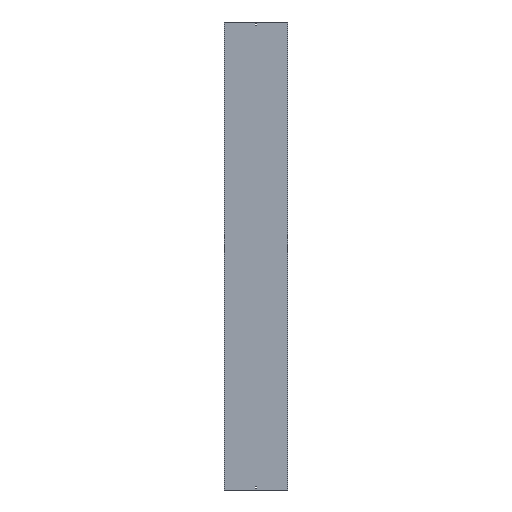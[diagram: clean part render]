
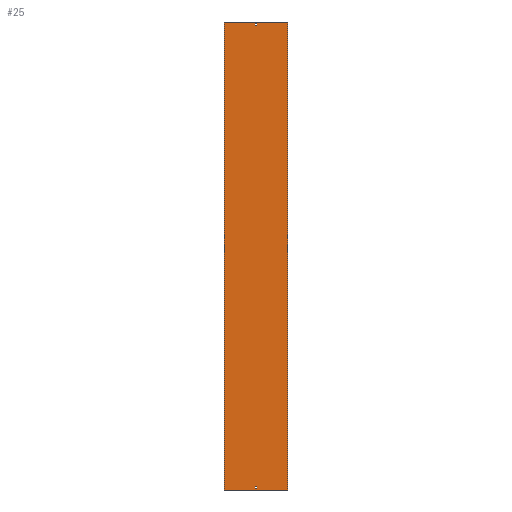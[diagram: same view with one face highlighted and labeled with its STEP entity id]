
A CAD part, front view. The second image highlights one B-rep face of the part: STEP entity #25.
In plain terms, the highlighted planar face has unit normal (0, -1, 0).
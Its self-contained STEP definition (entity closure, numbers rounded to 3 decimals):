
#25 = ADVANCED_FACE ( 'NONE', ( #1277, #1541, #258 ), #780, .F. ) ;
#28 = EDGE_LOOP ( 'NONE', ( #265, #1483, #921, #314 ) ) ;
#62 = DIRECTION ( 'NONE',  ( 1., 0., 0. ) ) ;
#79 = LINE ( 'NONE', #1613, #819 ) ;
#91 = EDGE_CURVE ( 'NONE', #234, #1179, #1422, .T. ) ;
#123 = DIRECTION ( 'NONE',  ( 0., 1., 0. ) ) ;
#131 = LINE ( 'NONE', #868, #434 ) ;
#137 = VECTOR ( 'NONE', #295, 1000. ) ;
#143 = EDGE_CURVE ( 'NONE', #1109, #902, #1446, .T. ) ;
#146 = EDGE_LOOP ( 'NONE', ( #377, #1325, #1459, #1434 ) ) ;
#148 = VERTEX_POINT ( 'NONE', #282 ) ;
#156 = ORIENTED_EDGE ( 'NONE', *, *, #91, .T. ) ;
#176 = CARTESIAN_POINT ( 'NONE',  ( 3.25, 0., 1479. ) ) ;
#180 = CARTESIAN_POINT ( 'NONE',  ( 3.25, 0., 1488. ) ) ;
#189 = DIRECTION ( 'NONE',  ( 1., 0., 0. ) ) ;
#213 = VECTOR ( 'NONE', #349, 1000. ) ;
#223 = ORIENTED_EDGE ( 'NONE', *, *, #365, .T. ) ;
#232 = LINE ( 'NONE', #1247, #429 ) ;
#234 = VERTEX_POINT ( 'NONE', #705 ) ;
#249 = DIRECTION ( 'NONE',  ( -1., 0., 0. ) ) ;
#258 = FACE_BOUND ( 'NONE', #873, .T. ) ;
#265 = ORIENTED_EDGE ( 'NONE', *, *, #1635, .F. ) ;
#282 = CARTESIAN_POINT ( 'NONE',  ( -3.25, 0., -1479. ) ) ;
#295 = DIRECTION ( 'NONE',  ( 0., 0., -1. ) ) ;
#310 = EDGE_CURVE ( 'NONE', #902, #570, #322, .T. ) ;
#314 = ORIENTED_EDGE ( 'NONE', *, *, #907, .F. ) ;
#322 = LINE ( 'NONE', #456, #213 ) ;
#338 = DIRECTION ( 'NONE',  ( 0., 0., 1. ) ) ;
#349 = DIRECTION ( 'NONE',  ( 0., 0., -1. ) ) ;
#364 = CARTESIAN_POINT ( 'NONE',  ( -202., 0., -1500. ) ) ;
#365 = EDGE_CURVE ( 'NONE', #148, #234, #232, .T. ) ;
#377 = ORIENTED_EDGE ( 'NONE', *, *, #1295, .T. ) ;
#382 = EDGE_CURVE ( 'NONE', #1179, #1374, #1218, .T. ) ;
#394 = VERTEX_POINT ( 'NONE', #1643 ) ;
#424 = DIRECTION ( 'NONE',  ( -1., 0., 0. ) ) ;
#429 = VECTOR ( 'NONE', #595, 1000. ) ;
#434 = VECTOR ( 'NONE', #650, 1000. ) ;
#444 = CARTESIAN_POINT ( 'NONE',  ( 3.25, 0., -1488. ) ) ;
#456 = CARTESIAN_POINT ( 'NONE',  ( -3.25, 0., 1488. ) ) ;
#458 = VECTOR ( 'NONE', #424, 1000. ) ;
#473 = CARTESIAN_POINT ( 'NONE',  ( 202., 0., 1500. ) ) ;
#570 = VERTEX_POINT ( 'NONE', #1444 ) ;
#579 = CARTESIAN_POINT ( 'NONE',  ( -3.25, 0., -1488. ) ) ;
#583 = VERTEX_POINT ( 'NONE', #176 ) ;
#595 = DIRECTION ( 'NONE',  ( 1., 0., 0. ) ) ;
#650 = DIRECTION ( 'NONE',  ( 0., 0., 1. ) ) ;
#662 = EDGE_CURVE ( 'NONE', #394, #681, #1180, .T. ) ;
#673 = VECTOR ( 'NONE', #1561, 1000. ) ;
#681 = VERTEX_POINT ( 'NONE', #1491 ) ;
#705 = CARTESIAN_POINT ( 'NONE',  ( 3.25, 0., -1479. ) ) ;
#713 = DIRECTION ( 'NONE',  ( -1., 0., 0. ) ) ;
#737 = VECTOR ( 'NONE', #875, 1000. ) ;
#780 = PLANE ( 'NONE',  #1211 ) ;
#792 = CARTESIAN_POINT ( 'NONE',  ( 202., 0., 1500. ) ) ;
#819 = VECTOR ( 'NONE', #338, 1000. ) ;
#844 = CARTESIAN_POINT ( 'NONE',  ( -202., 0., 1500. ) ) ;
#858 = LINE ( 'NONE', #844, #1443 ) ;
#866 = LINE ( 'NONE', #364, #737 ) ;
#868 = CARTESIAN_POINT ( 'NONE',  ( 3.25, 0., 1488. ) ) ;
#873 = EDGE_LOOP ( 'NONE', ( #1509, #223, #156, #1611 ) ) ;
#875 = DIRECTION ( 'NONE',  ( 1., 0., 0. ) ) ;
#902 = VERTEX_POINT ( 'NONE', #1674 ) ;
#907 = EDGE_CURVE ( 'NONE', #583, #1109, #131, .T. ) ;
#921 = ORIENTED_EDGE ( 'NONE', *, *, #143, .F. ) ;
#949 = EDGE_CURVE ( 'NONE', #1195, #1615, #1449, .T. ) ;
#1023 = CARTESIAN_POINT ( 'NONE',  ( 3.25, 0., -1488. ) ) ;
#1088 = LINE ( 'NONE', #1225, #1500 ) ;
#1105 = VECTOR ( 'NONE', #713, 1000. ) ;
#1109 = VERTEX_POINT ( 'NONE', #180 ) ;
#1116 = EDGE_CURVE ( 'NONE', #394, #1195, #858, .T. ) ;
#1176 = EDGE_CURVE ( 'NONE', #1374, #148, #79, .T. ) ;
#1178 = DIRECTION ( 'NONE',  ( 0., 0., -1. ) ) ;
#1179 = VERTEX_POINT ( 'NONE', #444 ) ;
#1180 = LINE ( 'NONE', #1460, #137 ) ;
#1195 = VERTEX_POINT ( 'NONE', #473 ) ;
#1211 = AXIS2_PLACEMENT_3D ( 'NONE', #1555, #123, #249 ) ;
#1218 = LINE ( 'NONE', #579, #1105 ) ;
#1225 = CARTESIAN_POINT ( 'NONE',  ( -3.25, 0., 1479. ) ) ;
#1247 = CARTESIAN_POINT ( 'NONE',  ( -3.25, 0., -1479. ) ) ;
#1277 = FACE_OUTER_BOUND ( 'NONE', #146, .T. ) ;
#1295 = EDGE_CURVE ( 'NONE', #681, #1615, #866, .T. ) ;
#1322 = CARTESIAN_POINT ( 'NONE',  ( -3.25, 0., 1488. ) ) ;
#1325 = ORIENTED_EDGE ( 'NONE', *, *, #949, .F. ) ;
#1374 = VERTEX_POINT ( 'NONE', #1463 ) ;
#1415 = VECTOR ( 'NONE', #1178, 1000. ) ;
#1422 = LINE ( 'NONE', #1023, #673 ) ;
#1434 = ORIENTED_EDGE ( 'NONE', *, *, #662, .T. ) ;
#1443 = VECTOR ( 'NONE', #189, 1000. ) ;
#1444 = CARTESIAN_POINT ( 'NONE',  ( -3.25, 0., 1479. ) ) ;
#1446 = LINE ( 'NONE', #1322, #458 ) ;
#1449 = LINE ( 'NONE', #792, #1415 ) ;
#1459 = ORIENTED_EDGE ( 'NONE', *, *, #1116, .F. ) ;
#1460 = CARTESIAN_POINT ( 'NONE',  ( -202., 0., 1500. ) ) ;
#1463 = CARTESIAN_POINT ( 'NONE',  ( -3.25, 0., -1488. ) ) ;
#1483 = ORIENTED_EDGE ( 'NONE', *, *, #310, .F. ) ;
#1491 = CARTESIAN_POINT ( 'NONE',  ( -202., 0., -1500. ) ) ;
#1500 = VECTOR ( 'NONE', #62, 1000. ) ;
#1509 = ORIENTED_EDGE ( 'NONE', *, *, #1176, .T. ) ;
#1541 = FACE_BOUND ( 'NONE', #28, .T. ) ;
#1555 = CARTESIAN_POINT ( 'NONE',  ( -202., 0., 1500. ) ) ;
#1561 = DIRECTION ( 'NONE',  ( 0., 0., -1. ) ) ;
#1591 = CARTESIAN_POINT ( 'NONE',  ( 202., 0., -1500. ) ) ;
#1611 = ORIENTED_EDGE ( 'NONE', *, *, #382, .T. ) ;
#1613 = CARTESIAN_POINT ( 'NONE',  ( -3.25, 0., -1488. ) ) ;
#1615 = VERTEX_POINT ( 'NONE', #1591 ) ;
#1635 = EDGE_CURVE ( 'NONE', #570, #583, #1088, .T. ) ;
#1643 = CARTESIAN_POINT ( 'NONE',  ( -202., 0., 1500. ) ) ;
#1674 = CARTESIAN_POINT ( 'NONE',  ( -3.25, 0., 1488. ) ) ;
